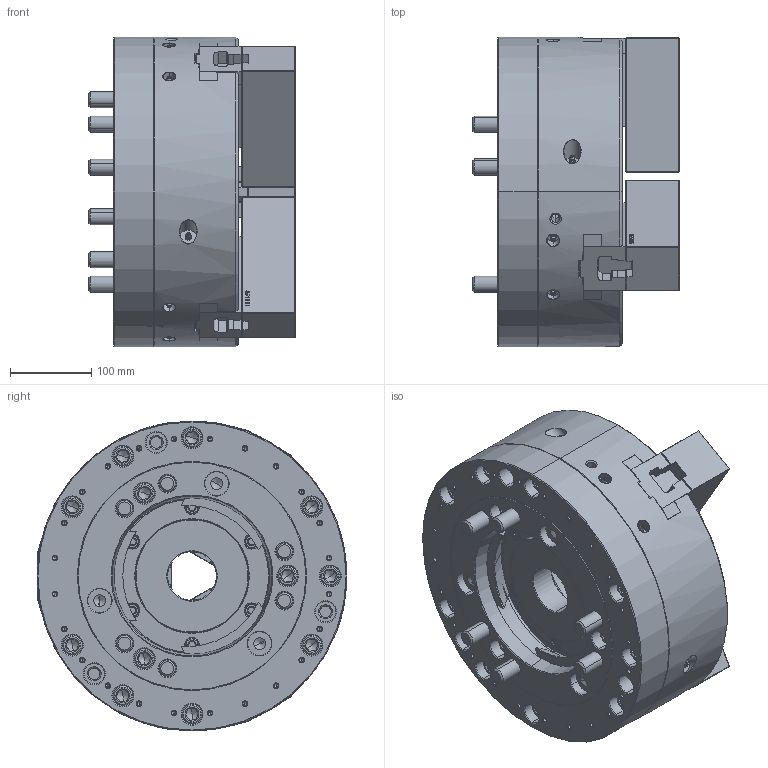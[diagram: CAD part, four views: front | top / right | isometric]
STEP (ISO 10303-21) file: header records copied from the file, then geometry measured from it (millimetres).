
FILE_DESCRIPTION (( 'STEP AP214' ), '1' );
FILE_NAME ('DT1_HOH-15K_OUTSIDE_VIEW_HUL.STEP', '2025-12-07T23:19:22', ( '' ), ( '' ), 'SwSTEP 2.0', 'SolidWorks 2022', '' );
FILE_SCHEMA (( 'AUTOMOTIVE_DESIGN' ));
Length unit declared in the file: millimetre
Products named in the file (9): DT1_HOH-15K_M20x55^DT1_HOH-15K; DT1_HOH-15K_BASE^DT1_HOH-15K; DT1_HOH-15K_M20x160^DT1_HOH-15K; DT1_HOH-15K_M6x20^DT1_HOH-15K; DT1_HOH-15K_SOFTJAW^DT1_HOH-15K; DT1_HOH-15K_TNUT^DT1_HOH-15K; DT1_HOH-15K_COVER^DT1_HOH-15K; DT1_HOH-15K_OUTSIDE_VIEW_HUL; DT1_HOH-15K_DRAWNUT^DT1_HOH-15K
Assembly tree (27 placements, depth 2):
  DT1_HOH-15K_OUTSIDE_VIEW_HUL
    DT1_HOH-15K_SOFTJAW^DT1_HOH-15K  x3
    DT1_HOH-15K_TNUT^DT1_HOH-15K  x3
    DT1_HOH-15K_DRAWNUT^DT1_HOH-15K
    DT1_HOH-15K_COVER^DT1_HOH-15K
    DT1_HOH-15K_BASE^DT1_HOH-15K
    DT1_HOH-15K_M6x20^DT1_HOH-15K  x6
    DT1_HOH-15K_M20x55^DT1_HOH-15K  x6
    DT1_HOH-15K_M20x160^DT1_HOH-15K  x6
Bounding box: 254 x 381 x 381 mm (x, y, z)
Volume: 16840642.8 mm3; surface area: 1236719.9 mm2
Topology: 27 solids, 27 shells, 8084 faces, 22864 edges, 14949 vertices
Faces by surface type: plane 4697, cylinder 2277, cone 694, bspline 317, torus 81, sphere 18
Entity records: 191317 total; most frequent: CARTESIAN_POINT 64274, ORIENTED_EDGE 28752, DIRECTION 23024, EDGE_CURVE 14376, VECTOR 9900, LINE 9900, VERTEX_POINT 9400, AXIS2_PLACEMENT_3D 6562
